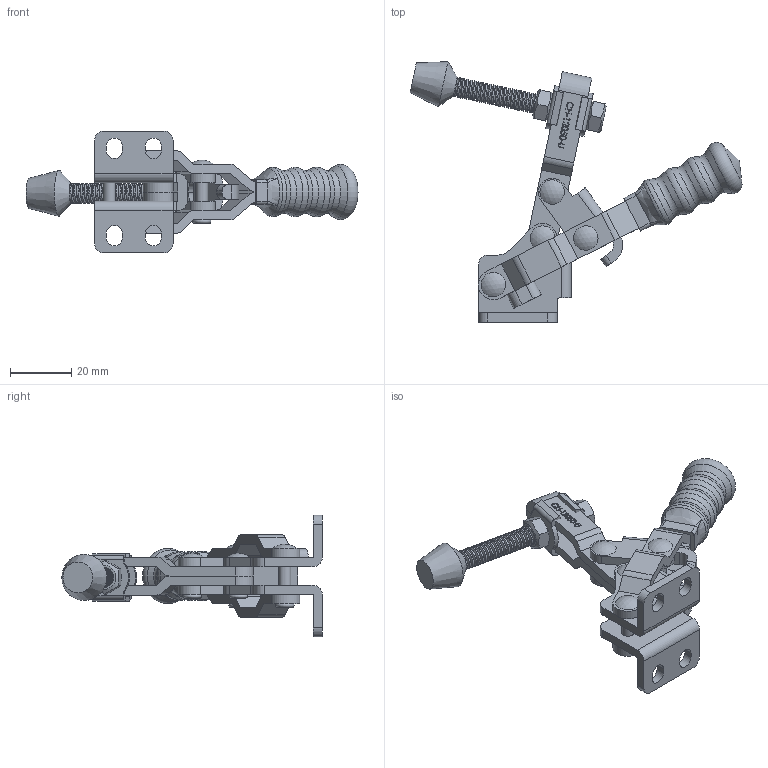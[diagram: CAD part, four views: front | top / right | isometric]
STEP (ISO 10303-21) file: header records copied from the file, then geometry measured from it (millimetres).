
FILE_DESCRIPTION(/* description */ ('STEP AP203'),/* implementation_level */ '2;1');
FILE_NAME(/* name */ 'D:\Vault_2016\Projekty\NASZ KATALOG\CLAMPTEK\STRONA\Vertical toggle clamp\CH-12050-U\CH-12050-U_OTWARTY.stp',/* time_stamp */ '2019-01-18T14:36:56+01:00',/* author */ ('CADENGINEERING4'),/* organization */ ('Î¢ÈíÖÐ¹ú'),/* preprocessor_version */ 'ST-DEVELOPER v17.2',/* originating_system */ 'Autodesk Inventor 2019',/* authorisation */ '');
FILE_SCHEMA (('AUTOMOTIVE_DESIGN { 1 0 10303 214 3 1 1 }'));
Products named in the file (11): CH-12050-U_OTWARTY; CH-12050-01 FLANGED BASE; CH-12050-04 CONNECTING-PLATE; CH-12050-03 STRAIGHT HANDLE; CH-12050-07; CH-12050-06; CH-FW-140; CH-12050-05; CH-12050-U-02 U-BAR; CH-FC-14134 SPINDLE SUPPLIED; CH-FC-14134 Nut
Assembly tree (14 placements, depth 2):
  CH-12050-U_OTWARTY
    CH-12050-01 FLANGED BASE
    CH-12050-04 CONNECTING-PLATE
    CH-12050-03 STRAIGHT HANDLE
    CH-12050-07  x2
    CH-12050-06  x2
    CH-FW-140  x2
    CH-12050-05
    CH-12050-U-02 U-BAR
    CH-FC-14134 Nut  x2
    CH-FC-14134 SPINDLE SUPPLIED
Bounding box: 108.35 x 84.99 x 39.8 mm (x, y, z)
Volume: 26132.4 mm3; surface area: 23639.1 mm2
Topology: 16 solids, 18 shells, 702 faces, 1958 edges, 1323 vertices
Faces by surface type: plane 321, bspline 195, cylinder 141, cone 25, torus 16, sphere 4
Full cylindrical faces by diameter (mm): 0.993 x1, 1.15 x1, 4 x20, 5.1 x6, 6.3 x2, 6.4 x26
Entity records: 39930 total; most frequent: CARTESIAN_POINT 23871, ORIENTED_EDGE 3630, DIRECTION 2606, EDGE_CURVE 1815, VERTEX_POINT 1227, LINE 1024, VECTOR 1024, AXIS2_PLACEMENT_3D 791
